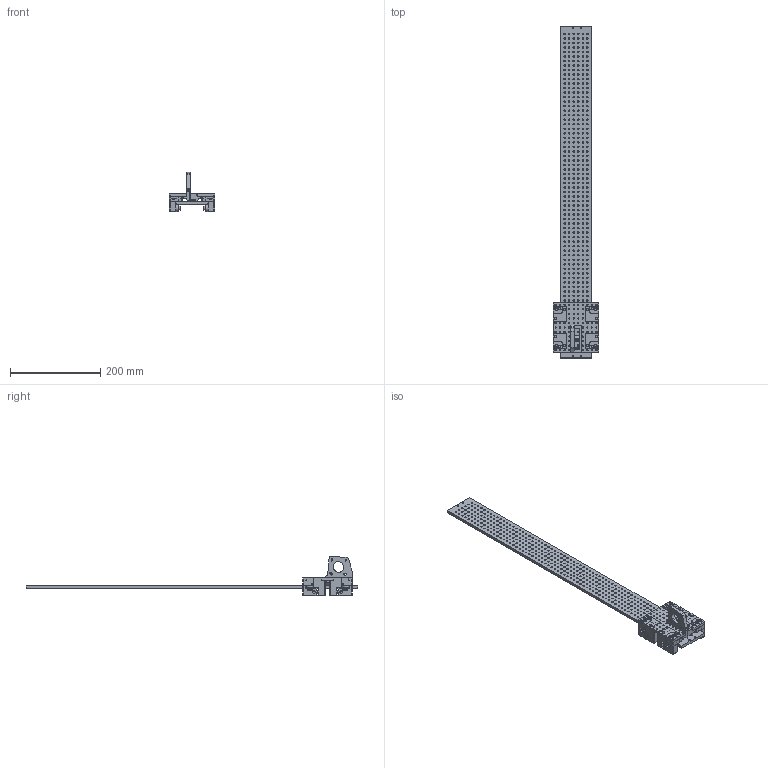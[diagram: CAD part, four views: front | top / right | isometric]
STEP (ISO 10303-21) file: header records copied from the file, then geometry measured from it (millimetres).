
FILE_DESCRIPTION(/* description */ (''),/* implementation_level */ '2;1');
FILE_NAME(/* name */ 'D:/dropbox/CBA/projects/machines/rctgantries/cad/dev/n17/RCTN17 MUSTFLUSH v11.step',/* time_stamp */ '2019-01-08T11:11:46-05:00',/* author */ ('jakerobertread@gmail.com'),/* organization */ (''),/* preprocessor_version */ 'ST-DEVELOPER v17.2',/* originating_system */ 'Autodesk Translation Framework v7.6.0.251',/* authorisation */ '');
FILE_SCHEMA (('AUTOMOTIVE_DESIGN { 1 0 10303 214 3 1 1 }'));
Length unit declared in the file: millimetre
Products named in the file (1): RCTN17 MUSTFLUSH
Bounding box: 101.6 x 735 x 87.54 mm (x, y, z)
Volume: 495795.3 mm3; surface area: 234721.1 mm2
Topology: 36 solids, 36 shells, 1231 faces, 3316 edges, 2190 vertices
Faces by surface type: cylinder 671, plane 351, bspline 197, cone 12
Full cylindrical faces by diameter (mm): 2.5 x38, 3.25 x42, 3.3 x430, 4.25 x4, 5.2 x37, 5.8 x22, 9 x14, 16 x12
Entity records: 48810 total; most frequent: CARTESIAN_POINT 16419, ORIENTED_EDGE 6632, DIRECTION 6013, EDGE_CURVE 3316, AXIS2_PLACEMENT_3D 2397, EDGE_LOOP 2352, VERTEX_POINT 2190, CIRCLE 1344
